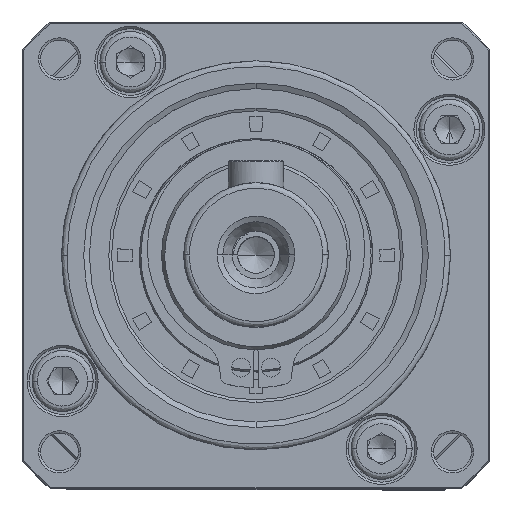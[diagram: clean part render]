
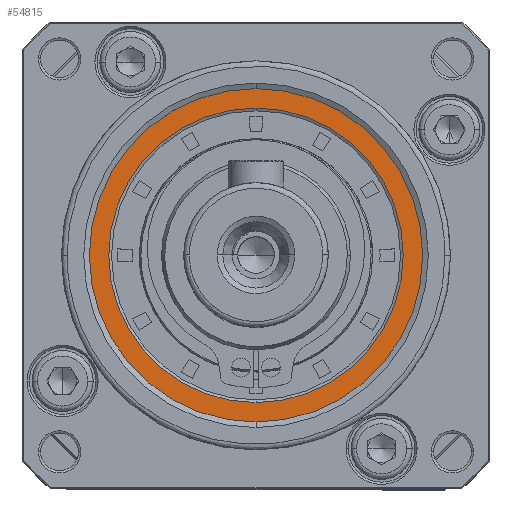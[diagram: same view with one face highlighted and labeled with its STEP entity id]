
A CAD part, top view. The second image highlights one B-rep face of the part: STEP entity #54815.
In plain terms, the highlighted planar face has unit normal (0, 0, 1).
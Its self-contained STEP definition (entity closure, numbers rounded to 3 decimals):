
#1242 = CARTESIAN_POINT ( 'NONE',  ( -0.08, 1.528, 63.002 ) ) ;
#3719 = EDGE_LOOP ( 'NONE', ( #19336, #59147 ) ) ;
#4245 = AXIS2_PLACEMENT_3D ( 'NONE', #100583, #109893, #119208 ) ;
#7005 = VERTEX_POINT ( 'NONE', #1242 ) ;
#11917 = VERTEX_POINT ( 'NONE', #31776 ) ;
#12850 = DIRECTION ( 'NONE',  ( 0., -1., 0. ) ) ;
#14592 = CIRCLE ( 'NONE', #4245, 15. ) ;
#16150 = AXIS2_PLACEMENT_3D ( 'NONE', #48300, #75731, #94184 ) ;
#19336 = ORIENTED_EDGE ( 'NONE', *, *, #117976, .T. ) ;
#21705 = EDGE_CURVE ( 'NONE', #98437, #7005, #14592, .T. ) ;
#25285 = CARTESIAN_POINT ( 'NONE',  ( -30.08, 1.528, 63.002 ) ) ;
#31776 = CARTESIAN_POINT ( 'NONE',  ( -15.08, 14.778, 63.002 ) ) ;
#36181 = FACE_OUTER_BOUND ( 'NONE', #45192, .T. ) ;
#36907 = CIRCLE ( 'NONE', #116653, 13.25 ) ;
#45192 = EDGE_LOOP ( 'NONE', ( #49315, #96615 ) ) ;
#48300 = CARTESIAN_POINT ( 'NONE',  ( -15.08, 1.528, 63.002 ) ) ;
#49315 = ORIENTED_EDGE ( 'NONE', *, *, #54050, .T. ) ;
#51463 = AXIS2_PLACEMENT_3D ( 'NONE', #57278, #93871, #111680 ) ;
#54050 = EDGE_CURVE ( 'NONE', #7005, #98437, #78184, .T. ) ;
#54815 = ADVANCED_FACE ( 'NONE', ( #36181, #85143 ), #84656, .T. ) ;
#57278 = CARTESIAN_POINT ( 'NONE',  ( -15.08, 1.528, 63.002 ) ) ;
#59147 = ORIENTED_EDGE ( 'NONE', *, *, #102965, .T. ) ;
#59882 = CARTESIAN_POINT ( 'NONE',  ( -15.08, 1.528, 63.002 ) ) ;
#60234 = DIRECTION ( 'NONE',  ( 0., 0., -1. ) ) ;
#60390 = CARTESIAN_POINT ( 'NONE',  ( -15.08, -11.722, 63.002 ) ) ;
#69176 = DIRECTION ( 'NONE',  ( 0., 0., 1. ) ) ;
#69561 = CIRCLE ( 'NONE', #16150, 13.25 ) ;
#75731 = DIRECTION ( 'NONE',  ( 0., 0., -1. ) ) ;
#77223 = CARTESIAN_POINT ( 'NONE',  ( -15.08, 1.528, 63.002 ) ) ;
#78184 = CIRCLE ( 'NONE', #106105, 15. ) ;
#84656 = PLANE ( 'NONE',  #51463 ) ;
#85143 = FACE_BOUND ( 'NONE', #3719, .T. ) ;
#93871 = DIRECTION ( 'NONE',  ( 0., 0., 1. ) ) ;
#94184 = DIRECTION ( 'NONE',  ( 0., -1., 0. ) ) ;
#96615 = ORIENTED_EDGE ( 'NONE', *, *, #21705, .T. ) ;
#96892 = DIRECTION ( 'NONE',  ( 1., 0., 0. ) ) ;
#98437 = VERTEX_POINT ( 'NONE', #25285 ) ;
#100583 = CARTESIAN_POINT ( 'NONE',  ( -15.08, 1.528, 63.002 ) ) ;
#100603 = VERTEX_POINT ( 'NONE', #60390 ) ;
#102965 = EDGE_CURVE ( 'NONE', #11917, #100603, #36907, .T. ) ;
#106105 = AXIS2_PLACEMENT_3D ( 'NONE', #59882, #69176, #96892 ) ;
#109893 = DIRECTION ( 'NONE',  ( 0., 0., 1. ) ) ;
#111680 = DIRECTION ( 'NONE',  ( 1., 0., 0. ) ) ;
#116653 = AXIS2_PLACEMENT_3D ( 'NONE', #77223, #60234, #12850 ) ;
#117976 = EDGE_CURVE ( 'NONE', #100603, #11917, #69561, .T. ) ;
#119208 = DIRECTION ( 'NONE',  ( 1., 0., 0. ) ) ;
